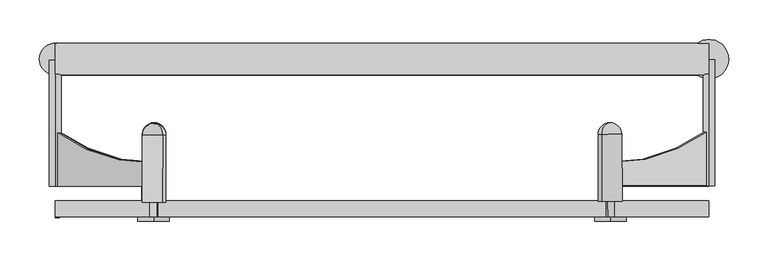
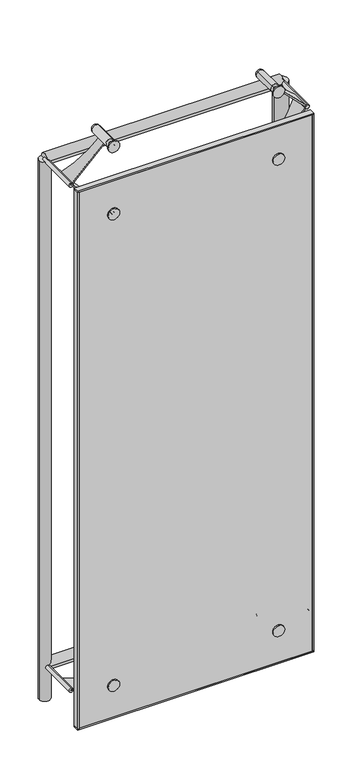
"""IFC4 building model written with IfcOpenShell, lengths in millimetres: plate geometry, FLATNING_TRYOUT : FLATNING_TRYOUT."""

from ifc_helpers import new_model, si_unit, point, frame, frame_2d, origin, origin_with_axes, place, context, project, spatial, polyline, circle_curve, ellipse_curve, trimmed, segment, composite_curve, outline, extrude, source, transform, mapped, element, save
from ifc_brep_helpers import plane_surface, cylinder_surface, revolved_surface, advanced_brep


def plate_b319cc00(model_context):
    return source(origin(), model_context, "Body", "SolidModel", [
        extrude(outline(composite_curve([segment(polyline([(29.9999999, 0.0), (0.0, 0.0)]), True, "CONTINUOUS"), segment(trimmed(circle_curve(frame_2d((-375.1980994, 8.2292431)), 375.2883348), [point((0.0, 0.0))], [point((-40.0000001, 177.0))], True, "CARTESIAN"), True, "CONTINUOUS"), segment(polyline([(-40.0000001, 177.0), (30.0, 177.0), (29.9999999, 0.0)]), True, "CONTINUOUS")], self_intersect=False)), frame((287.7156771, 69.2674093, 2123.3901333), z_axis=(0.7070974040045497, 0.003641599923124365, 0.7071067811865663), x_axis=(0.005150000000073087, -0.9999867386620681, 0.0)), (0.0, 0.0, 1.0), 5.0),
        advanced_brep(
        [(289.8439206, -0.7225584, 2125.1579003), (286.3084336, -0.7407664, 2128.6934342), (293.3794076, -0.7043504, 2121.6223664), (279.1344596, 19.2225524, 2135.764502), (278.6967096, 104.2214252, 2135.764502), (299.9096317, 104.3306732, 2114.5512986), (300.3473817, 19.3318004, 2114.5512986), (286.2054336, 19.2589684, 2128.6934342), (293.2764076, 19.2953844, 2121.6223664), (289.2259206, 119.2758503, 2125.1579003)],
        [
            (0, 1),
            (1, 2, circle_curve(frame((289.8439206, -0.7225584, 2125.1579003), z_axis=(0.005150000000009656, -0.9999867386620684, 0.0), x_axis=(0.7070974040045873, 0.0036415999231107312, -0.7071067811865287)), 5.0)),
            (2, 0),
            (2, 1, circle_curve(frame((289.8439206, -0.7225584, 2125.1579003), z_axis=(0.005150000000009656, -0.9999867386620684, 0.0), x_axis=(0.7070974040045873, 0.0036415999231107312, -0.7071067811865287)), 5.0)),
            (3, 4),
            (4, 5, circle_curve(frame((289.3031706, 104.2760492, 2125.1579003), z_axis=(0.005150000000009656, -0.9999867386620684, 0.0), x_axis=(0.7070974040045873, 0.0036415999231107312, -0.7071067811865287)), 15.0)),
            (5, 6),
            (6, 3, circle_curve(frame((289.7409206, 19.2771764, 2125.1579003), z_axis=(-0.005150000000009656, 0.9999867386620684, 0.0), x_axis=(0.7070974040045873, 0.0036415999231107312, -0.7071067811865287)), 15.0)),
            (5, 4, circle_curve(frame((289.3031706, 104.2760492, 2125.1579003), z_axis=(0.005150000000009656, -0.9999867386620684, 0.0), x_axis=(0.7070974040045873, 0.0036415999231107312, -0.7071067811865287)), 15.0)),
            (3, 6, circle_curve(frame((289.7409206, 19.2771764, 2125.1579003), z_axis=(-0.005150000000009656, 0.9999867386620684, 0.0), x_axis=(0.7070974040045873, 0.0036415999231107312, -0.7071067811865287)), 15.0)),
            (7, 3),
            (6, 8),
            (8, 7, circle_curve(frame((289.7409206, 19.2771764, 2125.1579003), z_axis=(-0.005150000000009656, 0.9999867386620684, 0.0), x_axis=(0.7070974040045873, 0.0036415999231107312, -0.7071067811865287)), 5.0)),
            (7, 8, circle_curve(frame((289.7409206, 19.2771764, 2125.1579003), z_axis=(-0.005150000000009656, 0.9999867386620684, 0.0), x_axis=(0.7070974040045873, 0.0036415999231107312, -0.7071067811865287)), 5.0)),
            (1, 7),
            (8, 2),
            (4, 9, circle_curve(frame((289.3031706, 104.2760492, 2125.1579003), z_axis=(-0.7070974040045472, -0.0036415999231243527, -0.7071067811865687), x_axis=(-0.7070974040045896, -0.003641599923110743, 0.7071067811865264)), 15.0)),
            (9, 5, circle_curve(frame((289.3031706, 104.2760492, 2125.1579003), z_axis=(-0.7070974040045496, -0.0036415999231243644, -0.7071067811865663), x_axis=(0.7070974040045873, 0.0036415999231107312, -0.7071067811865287)), 15.0)),
        ],
        [
            plane_surface(frame((289.8439206, -0.7225584, 2125.1579003), z_axis=(0.005150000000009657, -0.9999867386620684, 0.0), x_axis=(0.7070974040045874, 0.0036415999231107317, -0.7071067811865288))),
            cylinder_surface(frame((292.5734206, -530.7155299, 2125.1579003), z_axis=(0.005150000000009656, -0.9999867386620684, 0.0), x_axis=(0.7070974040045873, 0.0036415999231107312, -0.7071067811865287)), 15.0),
            plane_surface(frame((289.7409206, 19.2771764, 2125.1579003), z_axis=(0.005150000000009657, -0.9999867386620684, 0.0), x_axis=(0.7070974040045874, 0.0036415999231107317, -0.7071067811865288))),
            cylinder_surface(frame((292.5734206, -530.7155299, 2125.1579003), z_axis=(0.005150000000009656, -0.9999867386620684, 0.0), x_axis=(0.7070974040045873, 0.0036415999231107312, -0.7071067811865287)), 5.0),
            revolved_surface(trimmed(ellipse_curve(frame((289.3031706, 104.2760492, 2125.1579003), z_axis=(-0.7070974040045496, -0.0036415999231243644, -0.7071067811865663), x_axis=(0.7070974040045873, 0.0036415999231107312, -0.7071067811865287)), 15.0, 15.0), [point((289.2259206, 119.2758503, 2125.1579003))], [point((299.9096317, 104.3306732, 2114.5512986))], True, "CARTESIAN"), (292.5734206, -530.7155299, 2125.1579003), (0.005150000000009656, -0.9999867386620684, 0.0)),
        ],
        [
            (0, [[1, 2, 3]]),
            (0, [[-3, 4, -1]]),
            (1, [[5, 6, 7, 8]]),
            (1, [[-7, 9, -5, 10]]),
            (2, [[11, -8, 12, 13]]),
            (2, [[-12, -10, -11, 14]]),
            (3, [[15, -13, 16, -2]]),
            (3, [[-16, -14, -15, -4]]),
            (4, [[17, 18, -6]]),
            (4, [[-18, -17, -9]]),
        ],
    ),
        extrude(outline(composite_curve([segment(polyline([(-29.9999999, 0.0), (-30.0, 177.0), (40.0000001, 177.0)]), True, "CONTINUOUS"), segment(trimmed(circle_curve(frame_2d((375.1980994, 8.2292431)), 375.2883348), [point((40.0000001, 177.0))], [point((0.0, 0.0))], True, "CARTESIAN"), True, "CONTINUOUS"), segment(polyline([(0.0, 0.0), (-29.9999999, 0.0)]), True, "CONTINUOUS")], self_intersect=False)), frame((-287.7182745, 68.1085247, 2123.3901333), z_axis=(-0.7070974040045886, 0.003641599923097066, 0.7071067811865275), x_axis=(0.005150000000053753, 0.9999867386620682, 0.0)), (0.0, 0.0, 1.0), 5.0),
        advanced_brep(
        [(-289.846518, -1.881443, 2125.1579003), (-286.311031, -1.899651, 2128.6934342), (-293.3820051, -1.863235, 2121.6223664), (-279.137057, 18.0636678, 2135.764502), (-278.699307, 103.0625406, 2135.764502), (-299.9122291, 103.1717886, 2114.5512986), (-300.3499791, 18.1729158, 2114.5512986), (-286.208031, 18.1000838, 2128.6934342), (-293.2790051, 18.1364998, 2121.6223664), (-289.228518, 118.1169657, 2125.1579003)],
        [
            (0, 1),
            (1, 2, circle_curve(frame((-289.846518, -1.881443, 2125.1579003), z_axis=(-0.005149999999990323, -0.9999867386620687, 0.0), x_axis=(-0.7070974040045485, 0.0036415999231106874, -0.7071067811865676)), 5.0)),
            (2, 0),
            (2, 1, circle_curve(frame((-289.846518, -1.881443, 2125.1579003), z_axis=(-0.005149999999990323, -0.9999867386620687, 0.0), x_axis=(-0.7070974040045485, 0.0036415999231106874, -0.7071067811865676)), 5.0)),
            (3, 4),
            (4, 5, circle_curve(frame((-289.305768, 103.1171646, 2125.1579003), z_axis=(-0.005149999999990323, -0.9999867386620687, 0.0), x_axis=(-0.7070974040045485, 0.0036415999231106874, -0.7071067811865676)), 15.0)),
            (5, 6),
            (6, 3, circle_curve(frame((-289.743518, 18.1182918, 2125.1579003), z_axis=(0.005149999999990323, 0.9999867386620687, 0.0), x_axis=(-0.7070974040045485, 0.0036415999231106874, -0.7071067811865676)), 15.0)),
            (5, 4, circle_curve(frame((-289.305768, 103.1171646, 2125.1579003), z_axis=(-0.005149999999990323, -0.9999867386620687, 0.0), x_axis=(-0.7070974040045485, 0.0036415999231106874, -0.7071067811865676)), 15.0)),
            (3, 6, circle_curve(frame((-289.743518, 18.1182918, 2125.1579003), z_axis=(0.005149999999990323, 0.9999867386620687, 0.0), x_axis=(-0.7070974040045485, 0.0036415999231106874, -0.7071067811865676)), 15.0)),
            (7, 3),
            (6, 8),
            (8, 7, circle_curve(frame((-289.743518, 18.1182918, 2125.1579003), z_axis=(0.005149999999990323, 0.9999867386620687, 0.0), x_axis=(-0.7070974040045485, 0.0036415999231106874, -0.7071067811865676)), 5.0)),
            (7, 8, circle_curve(frame((-289.743518, 18.1182918, 2125.1579003), z_axis=(0.005149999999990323, 0.9999867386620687, 0.0), x_axis=(-0.7070974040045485, 0.0036415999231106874, -0.7071067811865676)), 5.0)),
            (1, 7),
            (8, 2),
            (4, 9, circle_curve(frame((-289.305768, 103.1171646, 2125.1579003), z_axis=(-0.707097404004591, 0.0036415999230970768, 0.7071067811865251), x_axis=(0.7070974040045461, -0.0036415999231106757, 0.7071067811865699)), 15.0)),
            (9, 5, circle_curve(frame((-289.305768, 103.1171646, 2125.1579003), z_axis=(-0.7070974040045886, 0.003641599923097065, 0.7071067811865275), x_axis=(-0.7070974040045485, 0.0036415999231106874, -0.7071067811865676)), 15.0)),
        ],
        [
            plane_surface(frame((-289.846518, -1.881443, 2125.1579003), z_axis=(-0.005149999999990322, -0.9999867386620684, 0.0), x_axis=(-0.7070974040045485, 0.0036415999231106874, -0.7071067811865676))),
            cylinder_surface(frame((-292.576018, -531.8744145, 2125.1579003), z_axis=(-0.005149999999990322, -0.9999867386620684, 0.0), x_axis=(-0.7070974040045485, 0.0036415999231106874, -0.7071067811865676)), 15.0),
            plane_surface(frame((-289.743518, 18.1182918, 2125.1579003), z_axis=(-0.005149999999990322, -0.9999867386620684, 0.0), x_axis=(-0.7070974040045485, 0.0036415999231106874, -0.7071067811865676))),
            cylinder_surface(frame((-292.576018, -531.8744145, 2125.1579003), z_axis=(-0.005149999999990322, -0.9999867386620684, 0.0), x_axis=(-0.7070974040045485, 0.0036415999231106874, -0.7071067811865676)), 5.0),
            revolved_surface(trimmed(ellipse_curve(frame((-289.305768, 103.1171646, 2125.1579003), z_axis=(-0.7070974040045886, 0.003641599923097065, 0.7071067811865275), x_axis=(-0.7070974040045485, 0.0036415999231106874, -0.7071067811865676)), 15.0, 15.0), [point((-289.228518, 118.1169657, 2125.1579003))], [point((-299.9122291, 103.1717886, 2114.5512986))], True, "CARTESIAN"), (-292.576018, -531.8744145, 2125.1579003), (-0.005149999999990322, -0.9999867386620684, 0.0)),
        ],
        [
            (0, [[1, 2, 3]]),
            (0, [[-3, 4, -1]]),
            (1, [[5, 6, 7, 8]]),
            (1, [[-7, 9, -5, 10]]),
            (2, [[11, -8, 12, 13]]),
            (2, [[-12, -10, -11, 14]]),
            (3, [[15, -13, 16, -2]]),
            (3, [[-16, -14, -15, -4]]),
            (4, [[17, 18, -6]]),
            (4, [[-18, -17, -9]]),
        ],
    ),
        extrude(outline(composite_curve([segment(polyline([(30.0, 0.0), (0.0, 0.0)]), True, "CONTINUOUS"), segment(trimmed(circle_curve(frame_2d((-375.1980994, 8.2292431)), 375.2883348), [point((0.0, 0.0))], [point((-40.0, 176.9999999))], True, "CARTESIAN"), True, "CONTINUOUS"), segment(polyline([(-40.0, 176.9999999), (30.0, 176.9999999), (30.0, 0.0)]), True, "CONTINUOUS")], self_intersect=False)), frame((291.251003, 69.2856165, 1873.0743328), z_axis=(-0.7070974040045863, -0.0036415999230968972, 0.7071067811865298), x_axis=(0.005150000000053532, -0.9999867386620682, 0.0)), (0.0, 0.0, 1.0), 5.0),
        advanced_brep(
        [(289.8437595, -0.7225592, 1874.8420997), (286.3082725, -0.7407672, 1871.3065658), (293.3792465, -0.7043512, 1878.3776336), (279.1342984, 19.2225516, 1864.235498), (278.6965484, 104.2214243, 1864.235498), (299.9094706, 104.3306723, 1885.4487014), (300.3472206, 19.3317996, 1885.4487014), (286.2052725, 19.2589676, 1871.3065658), (293.2762465, 19.2953836, 1878.3776336), (289.2257595, 119.2758494, 1874.8420997)],
        [
            (0, 1),
            (1, 2, circle_curve(frame((289.8437595, -0.7225592, 1874.8420997), z_axis=(0.005149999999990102, -0.9999867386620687, 0.0), x_axis=(0.7070974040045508, 0.0036415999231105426, 0.7071067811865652)), 5.0)),
            (2, 0),
            (2, 1, circle_curve(frame((289.8437595, -0.7225592, 1874.8420997), z_axis=(0.005149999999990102, -0.9999867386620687, 0.0), x_axis=(0.7070974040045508, 0.0036415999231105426, 0.7071067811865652)), 5.0)),
            (3, 4),
            (4, 5, circle_curve(frame((289.3030095, 104.2760483, 1874.8420997), z_axis=(0.005149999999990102, -0.9999867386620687, 0.0), x_axis=(0.7070974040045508, 0.0036415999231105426, 0.7071067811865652)), 15.0)),
            (5, 6),
            (6, 3, circle_curve(frame((289.7407595, 19.2771756, 1874.8420997), z_axis=(-0.005149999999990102, 0.9999867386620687, 0.0), x_axis=(0.7070974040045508, 0.0036415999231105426, 0.7071067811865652)), 15.0)),
            (5, 4, circle_curve(frame((289.3030095, 104.2760483, 1874.8420997), z_axis=(0.005149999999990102, -0.9999867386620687, 0.0), x_axis=(0.7070974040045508, 0.0036415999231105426, 0.7071067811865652)), 15.0)),
            (3, 6, circle_curve(frame((289.7407595, 19.2771756, 1874.8420997), z_axis=(-0.005149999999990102, 0.9999867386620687, 0.0), x_axis=(0.7070974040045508, 0.0036415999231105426, 0.7071067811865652)), 15.0)),
            (7, 3),
            (6, 8),
            (8, 7, circle_curve(frame((289.7407595, 19.2771756, 1874.8420997), z_axis=(-0.005149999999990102, 0.9999867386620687, 0.0), x_axis=(0.7070974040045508, 0.0036415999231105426, 0.7071067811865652)), 5.0)),
            (7, 8, circle_curve(frame((289.7407595, 19.2771756, 1874.8420997), z_axis=(-0.005149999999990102, 0.9999867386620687, 0.0), x_axis=(0.7070974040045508, 0.0036415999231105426, 0.7071067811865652)), 5.0)),
            (1, 7),
            (8, 2),
            (4, 9, circle_curve(frame((289.3030095, 104.2760483, 1874.8420997), z_axis=(0.7070974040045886, 0.003641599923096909, -0.7071067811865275), x_axis=(-0.7070974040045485, -0.003641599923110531, -0.7071067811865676)), 15.0)),
            (9, 5, circle_curve(frame((289.3030095, 104.2760483, 1874.8420997), z_axis=(0.7070974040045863, 0.0036415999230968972, -0.7071067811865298), x_axis=(0.7070974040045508, 0.0036415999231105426, 0.7071067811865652)), 15.0)),
        ],
        [
            plane_surface(frame((289.8437595, -0.7225592, 1874.8420997), z_axis=(0.005149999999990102, -0.9999867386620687, 0.0), x_axis=(0.7070974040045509, 0.003641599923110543, 0.7071067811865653))),
            cylinder_surface(frame((292.5732595, -530.7155307, 1874.8420997), z_axis=(0.005149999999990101, -0.9999867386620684, 0.0), x_axis=(0.7070974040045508, 0.0036415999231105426, 0.7071067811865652)), 15.0),
            plane_surface(frame((289.7407595, 19.2771756, 1874.8420997), z_axis=(0.005149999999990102, -0.9999867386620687, 0.0), x_axis=(0.7070974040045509, 0.003641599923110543, 0.7071067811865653))),
            cylinder_surface(frame((292.5732595, -530.7155307, 1874.8420997), z_axis=(0.005149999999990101, -0.9999867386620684, 0.0), x_axis=(0.7070974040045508, 0.0036415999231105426, 0.7071067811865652)), 5.0),
            revolved_surface(trimmed(ellipse_curve(frame((289.3030095, 104.2760483, 1874.8420997), z_axis=(0.7070974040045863, 0.0036415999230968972, -0.7071067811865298), x_axis=(0.7070974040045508, 0.0036415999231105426, 0.7071067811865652)), 15.0, 15.0), [point((289.2257595, 119.2758494, 1874.8420997))], [point((299.9094706, 104.3306723, 1885.4487014))], True, "CARTESIAN"), (292.5732595, -530.7155307, 1874.8420997), (0.005149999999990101, -0.9999867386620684, 0.0)),
        ],
        [
            (0, [[1, 2, 3]]),
            (0, [[-3, 4, -1]]),
            (1, [[5, 6, 7, 8]]),
            (1, [[-7, 9, -5, 10]]),
            (2, [[11, -8, 12, 13]]),
            (2, [[-12, -10, -11, 14]]),
            (3, [[15, -13, 16, -2]]),
            (3, [[-16, -14, -15, -4]]),
            (4, [[17, 18, -6]]),
            (4, [[-18, -17, -9]]),
        ],
    ),
        extrude(outline(composite_curve([segment(polyline([(30.0, 0.0), (30.0, -176.9999999), (-40.0, -176.9999999)]), True, "CONTINUOUS"), segment(trimmed(circle_curve(frame_2d((-375.1980994, -8.2292431)), 375.2883348), [point((-40.0, -176.9999999))], [point((0.0, 0.0))], True, "CARTESIAN"), True, "CONTINUOUS"), segment(polyline([(0.0, 0.0), (30.0, 0.0)]), True, "CONTINUOUS")], self_intersect=False)), frame((-291.251003, 69.2856165, 1873.0743328), z_axis=(0.7070974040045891, -0.003641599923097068, 0.707106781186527), x_axis=(-0.005150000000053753, -0.9999867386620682, 0.0)), (0.0, 0.0, 1.0), 5.0),
        advanced_brep(
        [(-289.8437595, -0.7225592, 1874.8420997), (-293.3792465, -0.7043512, 1878.3776336), (-286.3082725, -0.7407672, 1871.3065658), (-279.1342984, 19.2225516, 1864.235498), (-300.3472206, 19.3317996, 1885.4487014), (-299.9094706, 104.3306723, 1885.4487014), (-278.6965484, 104.2214243, 1864.235498), (-286.2052725, 19.2589676, 1871.3065658), (-293.2762465, 19.2953836, 1878.3776336), (-289.2257595, 119.2758494, 1874.8420997)],
        [
            (0, 1),
            (1, 2, circle_curve(frame((-289.8437595, -0.7225592, 1874.8420997), z_axis=(-0.005149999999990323, -0.9999867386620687, 0.0), x_axis=(-0.707097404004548, 0.003641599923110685, 0.707106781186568)), 5.0)),
            (2, 0),
            (2, 1, circle_curve(frame((-289.8437595, -0.7225592, 1874.8420997), z_axis=(-0.005149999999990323, -0.9999867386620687, 0.0), x_axis=(-0.707097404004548, 0.003641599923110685, 0.707106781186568)), 5.0)),
            (3, 4, circle_curve(frame((-289.7407595, 19.2771756, 1874.8420997), z_axis=(0.005149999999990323, 0.9999867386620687, 0.0), x_axis=(-0.707097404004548, 0.003641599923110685, 0.707106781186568)), 15.0)),
            (4, 5),
            (5, 6, circle_curve(frame((-289.3030095, 104.2760483, 1874.8420997), z_axis=(-0.005149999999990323, -0.9999867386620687, 0.0), x_axis=(-0.707097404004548, 0.003641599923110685, 0.707106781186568)), 15.0)),
            (6, 3),
            (4, 3, circle_curve(frame((-289.7407595, 19.2771756, 1874.8420997), z_axis=(0.005149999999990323, 0.9999867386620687, 0.0), x_axis=(-0.707097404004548, 0.003641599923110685, 0.707106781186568)), 15.0)),
            (6, 5, circle_curve(frame((-289.3030095, 104.2760483, 1874.8420997), z_axis=(-0.005149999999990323, -0.9999867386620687, 0.0), x_axis=(-0.707097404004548, 0.003641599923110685, 0.707106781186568)), 15.0)),
            (7, 8, circle_curve(frame((-289.7407595, 19.2771756, 1874.8420997), z_axis=(0.005149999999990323, 0.9999867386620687, 0.0), x_axis=(-0.707097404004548, 0.003641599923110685, 0.707106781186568)), 5.0)),
            (8, 4),
            (3, 7),
            (8, 7, circle_curve(frame((-289.7407595, 19.2771756, 1874.8420997), z_axis=(0.005149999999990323, 0.9999867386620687, 0.0), x_axis=(-0.707097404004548, 0.003641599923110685, 0.707106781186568)), 5.0)),
            (1, 8),
            (7, 2),
            (5, 9, circle_curve(frame((-289.3030095, 104.2760483, 1874.8420997), z_axis=(-0.7070974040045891, 0.0036415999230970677, -0.707106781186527), x_axis=(-0.707097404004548, 0.003641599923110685, 0.707106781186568)), 15.0)),
            (9, 6, circle_curve(frame((-289.3030095, 104.2760483, 1874.8420997), z_axis=(-0.7070974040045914, 0.0036415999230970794, -0.7071067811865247), x_axis=(0.7070974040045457, -0.003641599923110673, -0.7071067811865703)), 15.0)),
        ],
        [
            plane_surface(frame((-289.8437595, -0.7225592, 1874.8420997), z_axis=(-0.005149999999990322, -0.9999867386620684, 0.0), x_axis=(-0.707097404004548, 0.003641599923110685, 0.707106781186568))),
            cylinder_surface(frame((-292.5732595, -530.7155307, 1874.8420997), z_axis=(-0.005149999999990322, -0.9999867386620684, 0.0), x_axis=(-0.707097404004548, 0.003641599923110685, 0.707106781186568)), 15.0),
            plane_surface(frame((-289.7407595, 19.2771756, 1874.8420997), z_axis=(-0.005149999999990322, -0.9999867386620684, 0.0), x_axis=(-0.707097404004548, 0.003641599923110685, 0.707106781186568))),
            cylinder_surface(frame((-292.5732595, -530.7155307, 1874.8420997), z_axis=(-0.005149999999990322, -0.9999867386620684, 0.0), x_axis=(-0.707097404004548, 0.003641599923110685, 0.707106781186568)), 5.0),
            revolved_surface(trimmed(ellipse_curve(frame((-289.3030095, 104.2760483, 1874.8420997), z_axis=(0.7070974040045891, -0.0036415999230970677, 0.707106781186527), x_axis=(-0.707097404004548, 0.003641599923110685, 0.707106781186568)), 15.0, 15.0), [point((-289.2257595, 119.2758494, 1874.8420997))], [point((-299.9094706, 104.3306723, 1885.4487014))], True, "CARTESIAN"), (-292.5732595, -530.7155307, 1874.8420997), (-0.005149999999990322, -0.9999867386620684, 0.0)),
        ],
        [
            (0, [[1, 2, 3]]),
            (0, [[-3, 4, -1]]),
            (1, [[5, 6, 7, 8]]),
            (1, [[9, -8, 10, -6]]),
            (2, [[11, 12, -5, 13]]),
            (2, [[14, -13, -9, -12]]),
            (3, [[-2, 15, -11, 16]]),
            (3, [[-4, -16, -14, -15]]),
            (4, [[-7, 17, 18]]),
            (4, [[-10, -18, -17]]),
        ],
    ),
        extrude(outline(composite_curve([segment(polyline([(289.7956578, 38.1188255), (289.6411578, 68.1184277)]), True, "CONTINUOUS"), segment(trimmed(circle_curve(frame_2d((284.2588537, 296.5494046)), 228.4943772), [point((289.6411578, 68.1184277))], [point((414.4335002, 108.7616472))], True, "CARTESIAN"), True, "CONTINUOUS"), segment(polyline([(414.4335002, 108.7616472), (414.7940002, 38.7625755), (289.7956578, 38.1188255)]), True, "CONTINUOUS")], self_intersect=False)), frame((0.0, 0.0, 122.5), z_axis=(0.0, 0.0, 1.0), x_axis=(1.0, 0.0, 0.0)), (0.0, 0.0, 1.0), 5.0),
        advanced_brep(
        [(290.0016578, -1.880644, 125.0), (285.0017241, -1.906394, 125.0), (295.0015915, -1.854894, 125.0), (274.8988567, 18.0418408, 125.0), (274.4611067, 103.0407136, 125.0), (304.4607089, 103.1952136, 125.0), (304.8984589, 18.1963408, 125.0), (284.8987241, 18.0933408, 125.0), (294.8985915, 18.1448408, 125.0), (289.3836578, 118.1177646, 125.0)],
        [
            (0, 1),
            (1, 2, circle_curve(frame((290.0016578, -1.880644, 125.0), z_axis=(0.005149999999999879, -0.9999867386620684, 0.0), x_axis=(0.9999867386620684, 0.005149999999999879, 0.0)), 5.0)),
            (2, 0),
            (2, 1, circle_curve(frame((290.0016578, -1.880644, 125.0), z_axis=(0.005149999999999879, -0.9999867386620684, 0.0), x_axis=(0.9999867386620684, 0.005149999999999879, 0.0)), 5.0)),
            (3, 4),
            (4, 5, circle_curve(frame((289.4609078, 103.1179636, 125.0), z_axis=(0.005149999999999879, -0.9999867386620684, 0.0), x_axis=(0.9999867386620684, 0.005149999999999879, 0.0)), 15.0)),
            (5, 6),
            (6, 3, circle_curve(frame((289.8986578, 18.1190908, 125.0), z_axis=(-0.005149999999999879, 0.9999867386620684, 0.0), x_axis=(0.9999867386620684, 0.005149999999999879, 0.0)), 15.0)),
            (5, 4, circle_curve(frame((289.4609078, 103.1179636, 125.0), z_axis=(0.005149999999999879, -0.9999867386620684, 0.0), x_axis=(0.9999867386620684, 0.005149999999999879, 0.0)), 15.0)),
            (3, 6, circle_curve(frame((289.8986578, 18.1190908, 125.0), z_axis=(-0.005149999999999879, 0.9999867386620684, 0.0), x_axis=(0.9999867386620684, 0.005149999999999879, 0.0)), 15.0)),
            (7, 3),
            (6, 8),
            (8, 7, circle_curve(frame((289.8986578, 18.1190908, 125.0), z_axis=(-0.005149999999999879, 0.9999867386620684, 0.0), x_axis=(0.9999867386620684, 0.005149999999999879, 0.0)), 5.0)),
            (7, 8, circle_curve(frame((289.8986578, 18.1190908, 125.0), z_axis=(-0.005149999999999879, 0.9999867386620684, 0.0), x_axis=(0.9999867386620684, 0.005149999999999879, 0.0)), 5.0)),
            (1, 7),
            (8, 2),
            (4, 9, circle_curve(frame((289.4609078, 103.1179636, 125.0), z_axis=(0.0, 0.0, -1.0), x_axis=(-0.9999867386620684, -0.005149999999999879, 0.0)), 15.0)),
            (9, 5, circle_curve(frame((289.4609078, 103.1179636, 125.0), z_axis=(0.0, 0.0, -1.0), x_axis=(0.9999867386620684, 0.005149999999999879, 0.0)), 15.0)),
        ],
        [
            plane_surface(frame((290.0016578, -1.880644, 125.0), z_axis=(0.005149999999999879, -0.9999867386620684, 0.0), x_axis=(0.9999867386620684, 0.005149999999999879, 0.0))),
            cylinder_surface(frame((291.3149078, -256.8772624, 125.0), z_axis=(0.005149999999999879, -0.9999867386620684, 0.0), x_axis=(0.9999867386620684, 0.005149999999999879, 0.0)), 15.0),
            plane_surface(frame((289.8986578, 18.1190908, 125.0), z_axis=(0.005149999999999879, -0.9999867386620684, 0.0), x_axis=(0.9999867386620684, 0.005149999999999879, 0.0))),
            cylinder_surface(frame((291.3149078, -256.8772624, 125.0), z_axis=(0.005149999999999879, -0.9999867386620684, 0.0), x_axis=(0.9999867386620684, 0.005149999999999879, 0.0)), 5.0),
            revolved_surface(trimmed(ellipse_curve(frame((289.4609078, 103.1179636, 125.0), z_axis=(0.0, 0.0, -1.0), x_axis=(0.9999867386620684, 0.005149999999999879, 0.0)), 15.0, 15.0), [point((289.3836578, 118.1177646, 125.0))], [point((304.4607089, 103.1952136, 125.0))], True, "CARTESIAN"), (291.3149078, -256.8772624, 125.0), (0.005149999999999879, -0.9999867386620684, 0.0)),
        ],
        [
            (0, [[1, 2, 3]]),
            (0, [[-3, 4, -1]]),
            (1, [[5, 6, 7, 8]]),
            (1, [[-7, 9, -5, 10]]),
            (2, [[11, -8, 12, 13]]),
            (2, [[-12, -10, -11, 14]]),
            (3, [[15, -13, 16, -2]]),
            (3, [[-16, -14, -15, -4]]),
            (4, [[17, 18, -6]]),
            (4, [[-18, -17, -9]]),
        ],
    ),
        extrude(outline(composite_curve([segment(polyline([(-289.7956578, 38.1188255), (-414.7940002, 38.7625755), (-414.4335002, 108.7616472)]), True, "CONTINUOUS"), segment(trimmed(circle_curve(frame_2d((-284.2588537, 296.5494046)), 228.4943772), [point((-414.4335002, 108.7616472))], [point((-289.6411578, 68.1184277))], True, "CARTESIAN"), True, "CONTINUOUS"), segment(polyline([(-289.6411578, 68.1184277), (-289.7956578, 38.1188255)]), True, "CONTINUOUS")], self_intersect=False)), frame((0.0, 0.0, 122.5), z_axis=(0.0, 0.0, 1.0), x_axis=(1.0, 0.0, 0.0)), (0.0, 0.0, 1.0), 5.0),
        advanced_brep(
        [(-290.0016578, -1.880644, 125.0), (-285.0017241, -1.906394, 125.0), (-295.0015915, -1.854894, 125.0), (-274.8988567, 18.0418408, 125.0), (-274.4611067, 103.0407136, 125.0), (-304.4607089, 103.1952136, 125.0), (-304.8984589, 18.1963408, 125.0), (-284.8987241, 18.0933408, 125.0), (-294.8985915, 18.1448408, 125.0), (-289.3836578, 118.1177646, 125.0)],
        [
            (0, 1),
            (1, 2, circle_curve(frame((-290.0016578, -1.880644, 125.0), z_axis=(-0.0051500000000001, -0.9999867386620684, 0.0), x_axis=(-0.9999867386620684, 0.0051500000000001, 0.0)), 5.0)),
            (2, 0),
            (2, 1, circle_curve(frame((-290.0016578, -1.880644, 125.0), z_axis=(-0.0051500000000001, -0.9999867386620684, 0.0), x_axis=(-0.9999867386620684, 0.0051500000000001, 0.0)), 5.0)),
            (3, 4),
            (4, 5, circle_curve(frame((-289.4609078, 103.1179636, 125.0), z_axis=(-0.0051500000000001, -0.9999867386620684, 0.0), x_axis=(-0.9999867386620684, 0.0051500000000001, 0.0)), 15.0)),
            (5, 6),
            (6, 3, circle_curve(frame((-289.8986578, 18.1190908, 125.0), z_axis=(0.0051500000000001, 0.9999867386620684, 0.0), x_axis=(-0.9999867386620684, 0.0051500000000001, 0.0)), 15.0)),
            (5, 4, circle_curve(frame((-289.4609078, 103.1179636, 125.0), z_axis=(-0.0051500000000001, -0.9999867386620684, 0.0), x_axis=(-0.9999867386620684, 0.0051500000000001, 0.0)), 15.0)),
            (3, 6, circle_curve(frame((-289.8986578, 18.1190908, 125.0), z_axis=(0.0051500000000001, 0.9999867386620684, 0.0), x_axis=(-0.9999867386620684, 0.0051500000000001, 0.0)), 15.0)),
            (7, 3),
            (6, 8),
            (8, 7, circle_curve(frame((-289.8986578, 18.1190908, 125.0), z_axis=(0.0051500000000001, 0.9999867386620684, 0.0), x_axis=(-0.9999867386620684, 0.0051500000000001, 0.0)), 5.0)),
            (7, 8, circle_curve(frame((-289.8986578, 18.1190908, 125.0), z_axis=(0.0051500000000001, 0.9999867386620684, 0.0), x_axis=(-0.9999867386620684, 0.0051500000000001, 0.0)), 5.0)),
            (1, 7),
            (8, 2),
            (4, 9, circle_curve(frame((-289.4609078, 103.1179636, 125.0), z_axis=(0.0, 0.0, 1.0), x_axis=(0.9999867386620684, -0.0051500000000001, 0.0)), 15.0)),
            (9, 5, circle_curve(frame((-289.4609078, 103.1179636, 125.0), z_axis=(0.0, 0.0, 1.0), x_axis=(-0.9999867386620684, 0.0051500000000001, 0.0)), 15.0)),
        ],
        [
            plane_surface(frame((-290.0016578, -1.880644, 125.0), z_axis=(-0.0051500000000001, -0.9999867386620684, 0.0), x_axis=(-0.9999867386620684, 0.0051500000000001, 0.0))),
            cylinder_surface(frame((-291.3149078, -256.8772624, 125.0), z_axis=(-0.0051500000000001, -0.9999867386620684, 0.0), x_axis=(-0.9999867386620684, 0.0051500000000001, 0.0)), 15.0),
            plane_surface(frame((-289.8986578, 18.1190908, 125.0), z_axis=(-0.0051500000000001, -0.9999867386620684, 0.0), x_axis=(-0.9999867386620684, 0.0051500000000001, 0.0))),
            cylinder_surface(frame((-291.3149078, -256.8772624, 125.0), z_axis=(-0.0051500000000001, -0.9999867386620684, 0.0), x_axis=(-0.9999867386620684, 0.0051500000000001, 0.0)), 5.0),
            revolved_surface(trimmed(ellipse_curve(frame((-289.4609078, 103.1179636, 125.0), z_axis=(0.0, 0.0, 1.0), x_axis=(-0.9999867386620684, 0.0051500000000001, 0.0)), 15.0, 15.0), [point((-289.3836578, 118.1177646, 125.0))], [point((-304.4607089, 103.1952136, 125.0))], True, "CARTESIAN"), (-291.3149078, -256.8772624, 125.0), (-0.0051500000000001, -0.9999867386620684, 0.0)),
        ],
        [
            (0, [[1, 2, 3]]),
            (0, [[-3, 4, -1]]),
            (1, [[5, 6, 7, 8]]),
            (1, [[-7, 9, -5, 10]]),
            (2, [[11, -8, 12, 13]]),
            (2, [[-12, -10, -11, 14]]),
            (3, [[15, -13, 16, -2]]),
            (3, [[-16, -14, -15, -4]]),
            (4, [[17, 18, -6]]),
            (4, [[-18, -17, -9]]),
        ],
    ),
        extrude(outline(polyline([(415.0, 20.0), (415.0, 0.0), (-415.0, 0.0), (-415.0, 20.0), (415.0, 20.0)])), origin_with_axes(), (0.0, 0.0, 1.0), 5.0),
        extrude(outline(polyline([(415.0, 20.0), (415.0, 0.0), (-415.0, 0.0), (-415.0, 20.0), (415.0, 20.0)])), frame((0.0, 0.0, 1995.0), z_axis=(0.0, 0.0, 1.0), x_axis=(1.0, 0.0, 0.0)), (0.0, 0.0, 1.0), 5.0),
        extrude(outline(polyline([(410.0, -0.0781286), (410.0, 20.0), (415.0, 20.0), (415.0, -0.0781286), (410.0, -0.0781286)])), frame((0.0, 0.0, 5.0), z_axis=(0.0, 0.0, 1.0), x_axis=(1.0, 0.0, 0.0)), (0.0, 0.0, 1.0), 1990.0),
        extrude(outline(polyline([(-410.0, -1.236894), (-415.0000002, -1.236894), (-415.0000002, 20.0), (-410.0, 20.0), (-410.0, -1.236894)])), frame((0.0, 0.0, 5.0), z_axis=(0.0, 0.0, 1.0), x_axis=(1.0, 0.0, 0.0)), (0.0, 0.0, 1.0), 1990.0),
        extrude(outline(polyline([(410.0, 20.0), (410.0, 0.0), (-410.0, 0.0), (-410.0, 20.0), (410.0, 20.0)])), frame((0.0, 0.0, 5.0), z_axis=(0.0, 0.0, 1.0), x_axis=(1.0, 0.0, 0.0)), (0.0, 0.0, 1.0), 1990.0),
        extrude(outline(composite_curve([segment(trimmed(circle_curve(frame_2d((200.0, 2000.0)), 20.0), [point((220.0, 2000.0))], [point((180.0, 2000.0))], False, "CARTESIAN"), True, "CONTINUOUS"), segment(trimmed(circle_curve(frame_2d((200.0, 2000.0)), 20.0), [point((180.0, 2000.0))], [point((220.0, 2000.0))], False, "CARTESIAN"), True, "CONTINUOUS")], self_intersect=False)), frame((-415.0, 0.0, 0.0), z_axis=(1.0, 0.0, 0.0), x_axis=(0.0, 1.0, 0.0)), (0.0, 0.0, 1.0), 830.0),
        extrude(outline(composite_curve([segment(trimmed(circle_curve(frame_2d((200.0, 125.0)), 20.0), [point((220.0, 125.0))], [point((180.0, 125.0))], False, "CARTESIAN"), True, "CONTINUOUS"), segment(trimmed(circle_curve(frame_2d((200.0, 125.0)), 20.0), [point((180.0, 125.0))], [point((220.0, 125.0))], False, "CARTESIAN"), True, "CONTINUOUS")], self_intersect=False)), frame((-415.0, 0.0, 0.0), z_axis=(1.0, 0.0, 0.0), x_axis=(0.0, 1.0, 0.0)), (0.0, 0.0, 1.0), 830.0),
        extrude(outline(composite_curve([segment(trimmed(circle_curve(frame_2d((2000.0, -415.0)), 7.5), [point((1992.5, -415.0))], [point((2007.5, -415.0))], False, "CARTESIAN"), True, "CONTINUOUS"), segment(trimmed(circle_curve(frame_2d((2000.0, -415.0)), 7.5), [point((2007.5, -415.0))], [point((1992.5, -415.0))], False, "CARTESIAN"), True, "CONTINUOUS")], self_intersect=False)), frame((0.0, 38.6528093, 0.0), z_axis=(0.0, 1.0, 0.0), x_axis=(0.0, 0.0, 1.0)), (0.0, 0.0, 1.0), 160.0),
        extrude(outline(composite_curve([segment(trimmed(circle_curve(frame_2d((2000.0, 415.0)), 7.5), [point((1992.5, 415.0))], [point((2007.5, 415.0))], False, "CARTESIAN"), True, "CONTINUOUS"), segment(trimmed(circle_curve(frame_2d((2000.0, 415.0)), 7.5), [point((2007.5, 415.0))], [point((1992.5, 415.0))], False, "CARTESIAN"), True, "CONTINUOUS")], self_intersect=False)), frame((0.0, 39.2242369, 0.0), z_axis=(0.0, 1.0, 0.0), x_axis=(0.0, 0.0, 1.0)), (0.0, 0.0, 1.0), 160.0),
        extrude(outline(composite_curve([segment(trimmed(circle_curve(frame_2d((0.0, 20.0)), 20.0), [point((0.0, 40.0))], [point((0.0, 0.0))], False, "CARTESIAN"), True, "CONTINUOUS"), segment(trimmed(circle_curve(frame_2d((0.0, 20.0)), 20.0), [point((0.0, 0.0))], [point((0.0, 40.0))], False, "CARTESIAN"), True, "CONTINUOUS")], self_intersect=False)), frame((-290.0, -5.7218209, 1895.0), z_axis=(0.005150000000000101, 0.9999867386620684, 0.0), x_axis=(0.9999867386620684, -0.005150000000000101, 0.0)), (0.0, 0.0, 1.0), 5.0),
        extrude(outline(composite_curve([segment(trimmed(circle_curve(frame_2d((0.0, -230.0)), 20.0), [point((0.0, -210.0))], [point((0.0, -250.0))], False, "CARTESIAN"), True, "CONTINUOUS"), segment(trimmed(circle_curve(frame_2d((0.0, -230.0)), 20.0), [point((0.0, -250.0))], [point((0.0, -210.0))], False, "CARTESIAN"), True, "CONTINUOUS")], self_intersect=False)), frame((-290.0, -5.7218209, 1895.0), z_axis=(0.005150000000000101, 0.9999867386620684, 0.0), x_axis=(0.9999867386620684, -0.005150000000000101, 0.0)), (0.0, 0.0, 1.0), 5.0),
        extrude(outline(composite_curve([segment(trimmed(circle_curve(frame_2d((0.0, 20.0)), 20.0), [point((0.0, 40.0))], [point((0.0, 0.0))], False, "CARTESIAN"), True, "CONTINUOUS"), segment(trimmed(circle_curve(frame_2d((0.0, 20.0)), 20.0), [point((0.0, 0.0))], [point((0.0, 40.0))], False, "CARTESIAN"), True, "CONTINUOUS")], self_intersect=False)), frame((290.0, -5.7218209, 1895.0), z_axis=(-0.005149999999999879, 0.9999867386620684, 0.0), x_axis=(0.9999867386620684, 0.005149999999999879, 0.0)), (0.0, 0.0, 1.0), 5.0),
        extrude(outline(composite_curve([segment(trimmed(circle_curve(frame_2d((0.0, -230.0)), 20.0), [point((0.0, -210.0))], [point((0.0, -250.0))], False, "CARTESIAN"), True, "CONTINUOUS"), segment(trimmed(circle_curve(frame_2d((0.0, -230.0)), 20.0), [point((0.0, -250.0))], [point((0.0, -210.0))], False, "CARTESIAN"), True, "CONTINUOUS")], self_intersect=False)), frame((290.0, -5.7218209, 1895.0), z_axis=(-0.005149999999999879, 0.9999867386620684, 0.0), x_axis=(0.9999867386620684, 0.005149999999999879, 0.0)), (0.0, 0.0, 1.0), 5.0),
        extrude(outline(composite_curve([segment(trimmed(circle_curve(frame_2d((125.0, 415.0)), 7.5), [point((117.5, 415.0))], [point((132.5, 415.0))], False, "CARTESIAN"), True, "CONTINUOUS"), segment(trimmed(circle_curve(frame_2d((125.0, 415.0)), 7.5), [point((132.5, 415.0))], [point((117.5, 415.0))], False, "CARTESIAN"), True, "CONTINUOUS")], self_intersect=False)), frame((0.0, 39.2589491, 0.0), z_axis=(0.0, 1.0, 0.0), x_axis=(0.0, 0.0, 1.0)), (0.0, 0.0, 1.0), 160.0),
        extrude(outline(composite_curve([segment(trimmed(circle_curve(frame_2d((0.0, 20.0)), 20.0), [point((0.0, 40.0))], [point((0.0, 0.0))], False, "CARTESIAN"), True, "CONTINUOUS"), segment(trimmed(circle_curve(frame_2d((0.0, 20.0)), 20.0), [point((0.0, 0.0))], [point((0.0, 40.0))], False, "CARTESIAN"), True, "CONTINUOUS")], self_intersect=False)), frame((290.02575, -5.7218209, 145.0), z_axis=(-0.005149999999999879, 0.9999867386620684, 0.0), x_axis=(0.9999867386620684, 0.005149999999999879, 0.0)), (0.0, 0.0, 1.0), 5.0),
        extrude(outline(composite_curve([segment(trimmed(circle_curve(frame_2d((125.0, -415.0)), 7.5), [point((117.5, -415.0))], [point((132.5, -415.0))], False, "CARTESIAN"), True, "CONTINUOUS"), segment(trimmed(circle_curve(frame_2d((125.0, -415.0)), 7.5), [point((132.5, -415.0))], [point((117.5, -415.0))], False, "CARTESIAN"), True, "CONTINUOUS")], self_intersect=False)), frame((0.0, 38.8047197, 0.0), z_axis=(0.0, 1.0, 0.0), x_axis=(0.0, 0.0, 1.0)), (0.0, 0.0, 1.0), 160.0),
        extrude(outline(composite_curve([segment(trimmed(circle_curve(frame_2d((0.0, 20.0)), 20.0), [point((0.0, 40.0))], [point((0.0, 0.0))], False, "CARTESIAN"), True, "CONTINUOUS"), segment(trimmed(circle_curve(frame_2d((0.0, 20.0)), 20.0), [point((0.0, 0.0))], [point((0.0, 40.0))], False, "CARTESIAN"), True, "CONTINUOUS")], self_intersect=False)), frame((-290.02575, -5.7218209, 145.0), z_axis=(0.005150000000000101, 0.9999867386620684, 0.0), x_axis=(0.9999867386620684, -0.005150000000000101, 0.0)), (0.0, 0.0, 1.0), 5.0),
        extrude(outline(composite_curve([segment(trimmed(circle_curve(frame_2d((415.0, 200.0)), 25.0), [point((390.0, 200.0))], [point((440.0, 200.0))], False, "CARTESIAN"), True, "CONTINUOUS"), segment(trimmed(circle_curve(frame_2d((415.0, 200.0)), 25.0), [point((440.0, 200.0))], [point((390.0, 200.0))], False, "CARTESIAN"), True, "CONTINUOUS")], self_intersect=False)), origin_with_axes(), (0.0, 0.0, 1.0), 2000.0),
        extrude(outline(composite_curve([segment(trimmed(circle_curve(frame_2d((-415.0, 200.0)), 20.0), [point((-435.0, 200.0))], [point((-395.0, 200.0))], False, "CARTESIAN"), True, "CONTINUOUS"), segment(trimmed(circle_curve(frame_2d((-415.0, 200.0)), 20.0), [point((-395.0, 200.0))], [point((-435.0, 200.0))], False, "CARTESIAN"), True, "CONTINUOUS")], self_intersect=False)), origin_with_axes(), (0.0, 0.0, 1.0), 2000.0),
    ])


if __name__ == "__main__":
    model = new_model("IFC4")
    model_context = context("Model", 3, world=origin())
    ifc_project = project(units=[si_unit("LENGTHUNIT", "METRE", prefix="MILLI")], contexts=[model_context])
    site = spatial("IfcSite", under=ifc_project)
    building = spatial("IfcBuilding", under=site)
    placement = place(None, origin())
    plate_shape = plate_b319cc00(model_context)
    element("IfcPlate", 1, ObjectType="FLATNING_TRYOUT : FLATNING_TRYOUT", at=placement, inside=building, context=model_context, shape_type="MappedRepresentation", body=[
        mapped(plate_shape, transform((0.0, 0.0, 0.0), x_axis=(1.0, 0.0, 0.0), y_axis=(0.0, 1.0, 0.0), z_axis=(0.0, 0.0, 1.0))),
    ])
    save(model, "model.ifc")
